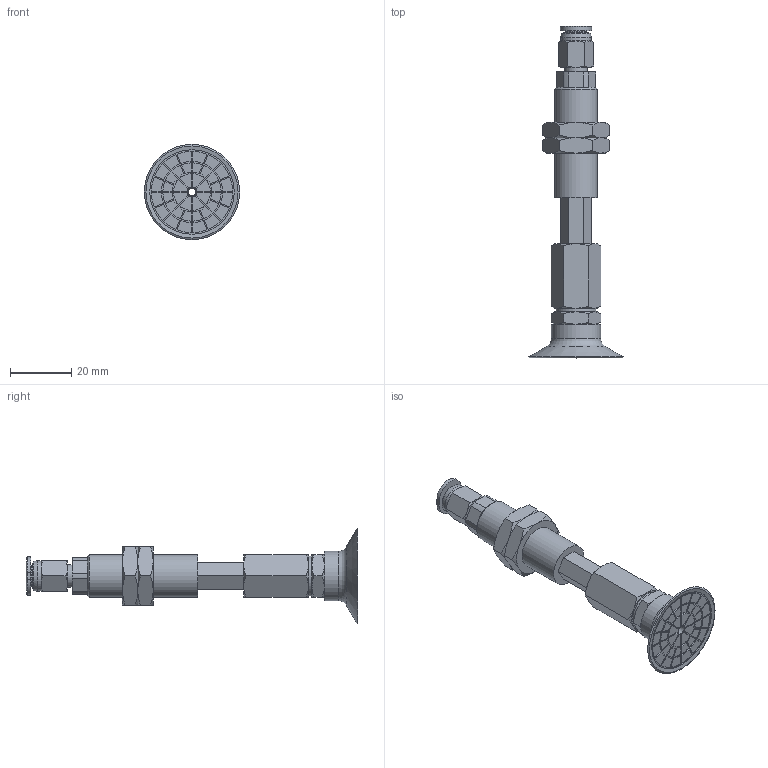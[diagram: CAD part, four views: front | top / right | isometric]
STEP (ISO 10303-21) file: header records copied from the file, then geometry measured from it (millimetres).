
FILE_DESCRIPTION(('STEP AP203'),'1');
FILE_NAME('-O.stp','2025-08-26T08:10:40',(' '),(' '),'Spatial InterOp 3D',' ',' ');
FILE_SCHEMA(('CONFIG_CONTROL_DESIGN'));
Length unit declared in the file: millimetre
Products named in the file (8): BNABPATH-30B-15-※-O; NAPATH-30-15--M; ADAPTER; Nut-25-S; NAPATH-30-15--F; BPAG-30B-※; TN-PA-30B-M6; PC-C_06-M5
Assembly tree (8 placements, depth 2):
  BNABPATH-30B-15-※-O
    NAPATH-30-15--M
    ADAPTER
    Nut-25-S  x2
    NAPATH-30-15--F
    BPAG-30B-※
    TN-PA-30B-M6
    PC-C_06-M5
Bounding box: 31.04 x 108.18 x 31.04 mm (x, y, z)
Volume: 15735 mm3; surface area: 13040.3 mm2
Topology: 7 solids, 10 shells, 409 faces, 944 edges, 601 vertices
Faces by surface type: plane 214, cylinder 104, cone 76, torus 8, bspline 4, revolution 3
Full cylindrical faces by diameter (mm): 2.5 x1, 3 x3, 4 x2, 4.134 x1, 4.917 x1, 5 x1, 6 x3, 7 x1, 7.4 x1, 8.2 x1, 10 x3, 12.917 x2, 13 x1, 14 x1, 16 x1, 27.5 x1
Entity records: 11533 total; most frequent: CARTESIAN_POINT 2532, DIRECTION 1812, ORIENTED_EDGE 1676, EDGE_CURVE 840, AXIS2_PLACEMENT_3D 684, VERTEX_POINT 564, EDGE_LOOP 494, LINE 441
